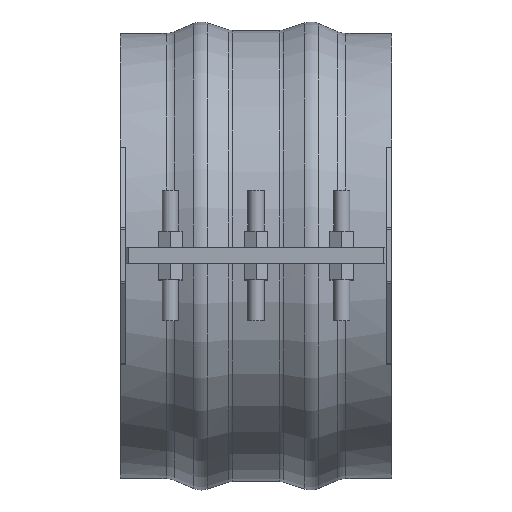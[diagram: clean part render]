
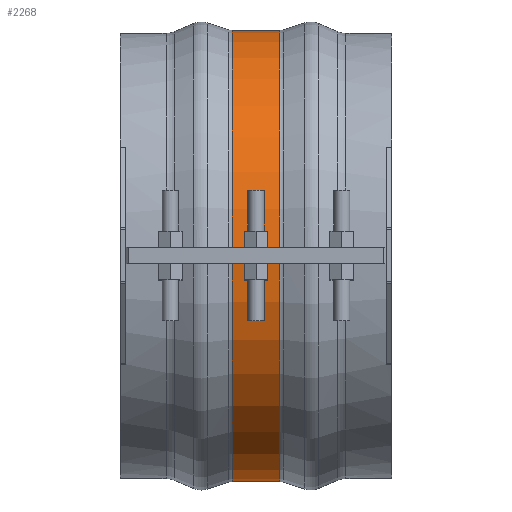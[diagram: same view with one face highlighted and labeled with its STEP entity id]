
A CAD part, top view. The second image highlights one B-rep face of the part: STEP entity #2268.
In plain terms, the highlighted cylindrical face has radius 263.827 mm (diameter 527.654 mm), a partial arc.
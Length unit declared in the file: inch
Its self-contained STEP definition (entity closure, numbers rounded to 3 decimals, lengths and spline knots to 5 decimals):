
#266=FACE_OUTER_BOUND('',#395,.T.);
#395=EDGE_LOOP('',(#1872,#1873,#1874,#1875));
#597=LINE('',#3675,#788);
#602=LINE('',#3760,#793);
#788=VECTOR('',#2968,0.3937);
#793=VECTOR('',#2977,0.3937);
#848=CIRCLE('',#2449,10.38689);
#849=CIRCLE('',#2451,10.38689);
#1054=VERTEX_POINT('',#3667);
#1055=VERTEX_POINT('',#3674);
#1066=VERTEX_POINT('',#3752);
#1067=VERTEX_POINT('',#3759);
#1333=EDGE_CURVE('',#1055,#1054,#597,.T.);
#1348=EDGE_CURVE('',#1067,#1066,#602,.T.);
#1360=EDGE_CURVE('',#1055,#1066,#848,.T.);
#1361=EDGE_CURVE('',#1054,#1067,#849,.T.);
#1872=ORIENTED_EDGE('',*,*,#1333,.T.);
#1873=ORIENTED_EDGE('',*,*,#1361,.T.);
#1874=ORIENTED_EDGE('',*,*,#1348,.T.);
#1875=ORIENTED_EDGE('',*,*,#1360,.F.);
#2053=CYLINDRICAL_SURFACE('',#2450,10.38689);
#2268=ADVANCED_FACE('',(#266),#2053,.T.);
#2449=AXIS2_PLACEMENT_3D('',#3810,#2999,#3000);
#2450=AXIS2_PLACEMENT_3D('',#3811,#3001,#3002);
#2451=AXIS2_PLACEMENT_3D('',#3812,#3003,#3004);
#2968=DIRECTION('',(-1.,0.,0.));
#2977=DIRECTION('',(1.,0.,0.));
#2999=DIRECTION('center_axis',(1.,0.,0.));
#3000=DIRECTION('ref_axis',(0.,0.,-1.));
#3001=DIRECTION('center_axis',(1.,0.,0.));
#3002=DIRECTION('ref_axis',(0.,0.,
-1.));
#3003=DIRECTION('center_axis',(1.,0.,0.));
#3004=DIRECTION('ref_axis',(0.,0.,-1.));
#3667=CARTESIAN_POINT('',(-1.08851,-0.375,10.38012));
#3674=CARTESIAN_POINT('',(1.08851,-0.375,10.38012));
#3675=CARTESIAN_POINT('',(0.,-0.375,10.38012));
#3752=CARTESIAN_POINT('',(1.08851,0.375,10.38012));
#3759=CARTESIAN_POINT('',(-1.08851,0.375,10.38012));
#3760=CARTESIAN_POINT('',(0.,0.375,10.38012));
#3810=CARTESIAN_POINT('Origin',(1.08851,0.,0.));
#3811=CARTESIAN_POINT('Origin',(0.,0.,0.));
#3812=CARTESIAN_POINT('Origin',(-1.08851,0.,
0.));
